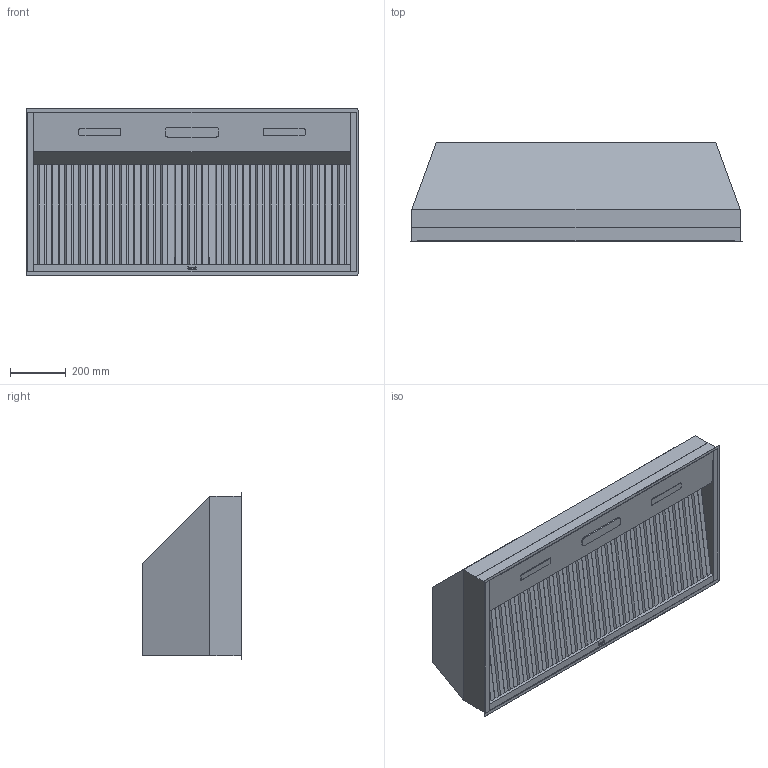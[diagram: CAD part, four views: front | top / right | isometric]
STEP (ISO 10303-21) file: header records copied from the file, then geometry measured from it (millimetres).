
FILE_DESCRIPTION((''),'2;1');
FILE_NAME('HBN348212SS_WEB_CAD_MODEL','2025-04-29T08:04:49',('BoutinM'),(''),'CREO PARAMETRIC BY PTC INC, 2023424','CREO PARAMETRIC BY PTC INC, 2023424','');
FILE_SCHEMA(('CONFIG_CONTROL_DESIGN','SHAPE_APPEARANCE_LAYERS_GROUPS'));
Length unit declared in the file: inch
Products named in the file (1): HBN348212SS_WEB_CAD_MODEL
Bounding box: 1189.41 x 356.36 x 596.9 mm (x, y, z)
Volume: 176776422.9 mm3; surface area: 2530569.2 mm2
Topology: 1 solids, 1 shells, 278 faces, 710 edges, 442 vertices
Faces by surface type: plane 249, cylinder 29
Entity records: 11061 total; most frequent: CARTESIAN_POINT 1430, ORIENTED_EDGE 1420, DIRECTION 1324, PRESENTATION_STYLE_ASSIGNMENT 746, STYLED_ITEM 711, CURVE_STYLE 710, EDGE_CURVE 710, VECTOR 652
